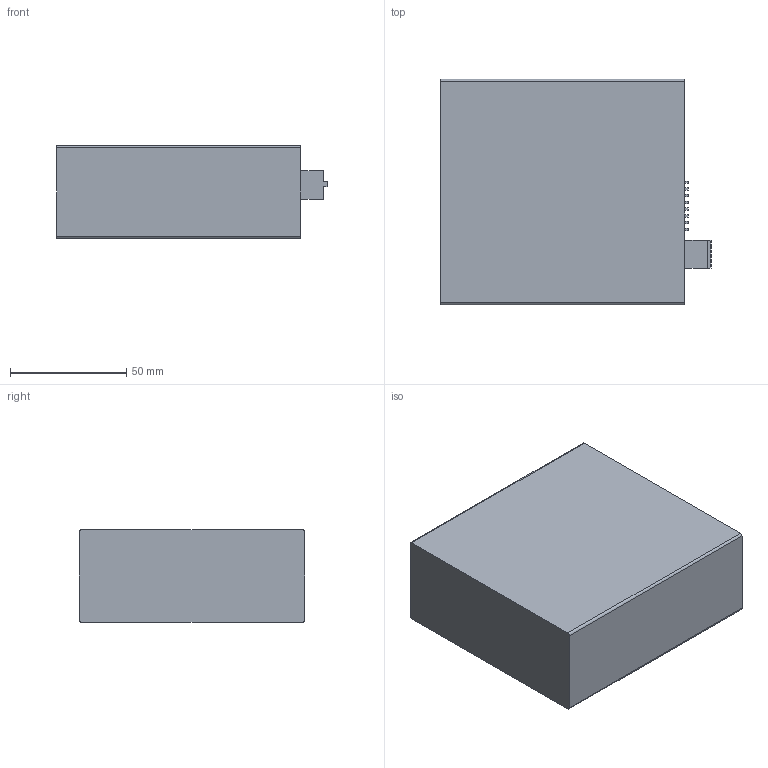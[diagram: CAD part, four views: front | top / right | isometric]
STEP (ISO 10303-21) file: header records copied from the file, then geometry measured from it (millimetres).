
FILE_DESCRIPTION((''),'2;1');
FILE_NAME('PN-ECAT_ASM','2026-05-28T',('Administrator'),(''),'PRO/ENGINEER BY PARAMETRIC TECHNOLOGY CORPORATION, 2015240','PRO/ENGINEER BY PARAMETRIC TECHNOLOGY CORPORATION, 2015240','');
FILE_SCHEMA(('CONFIG_CONTROL_DESIGN'));
Products named in the file (12): PRT0001_9; AMP_RJ45_MODULAR_JACK_HOUSING_1; AMP_RJ45_MODULAR_JACK_PIN_1; PRT0007; AMP_RJ45_MODULAR_JACK_SHIELD_1; ASM0001_ASM_1_ASM_ASM; ASM0003_ASM_ASM; 02_1; PRT0006_4; ASM0002_ASM_14_ASM_ASM; 05_ASM_ASM; PN-ECAT_ASM
Assembly tree (28 placements, depth 6):
  PN-ECAT_ASM
    05_ASM_ASM
      ASM0002_ASM_14_ASM_ASM
        PRT0001_9
        ASM0003_ASM_ASM
          ASM0001_ASM_1_ASM_ASM
            AMP_RJ45_MODULAR_JACK_HOUSING_1
            AMP_RJ45_MODULAR_JACK_PIN_1  x8
            PRT0007  x8
            AMP_RJ45_MODULAR_JACK_SHIELD_1
        ASM0001_ASM_1_ASM_ASM  x3
          AMP_RJ45_MODULAR_JACK_HOUSING_1
          AMP_RJ45_MODULAR_JACK_PIN_1
          PRT0007
          AMP_RJ45_MODULAR_JACK_SHIELD_1
        02_1
        PRT0006_4
Bounding box: 116.35 x 97 x 40 mm (x, y, z)
Volume: 397391.8 mm3; surface area: 64758 mm2
Topology: 75 solids, 75 shells, 6315 faces, 18061 edges, 12002 vertices
Faces by surface type: plane 4887, cylinder 1208, bspline 160, sphere 44, torus 16
Entity records: 103913 total; most frequent: CARTESIAN_POINT 21138, ORIENTED_EDGE 17912, DIRECTION 15911, EDGE_CURVE 8956, VECTOR 7723, LINE 7723, VERTEX_POINT 5953, AXIS2_PLACEMENT_3D 4094
